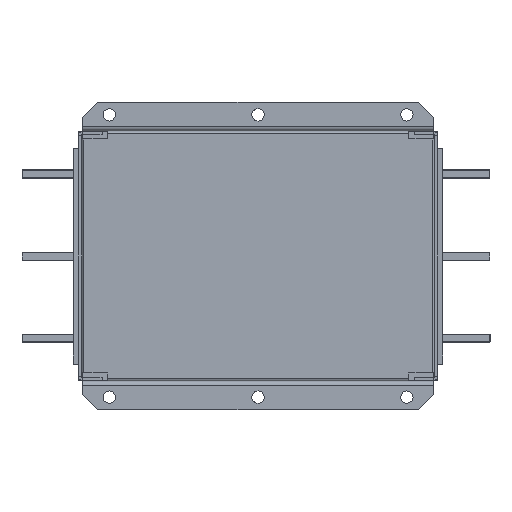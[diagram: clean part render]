
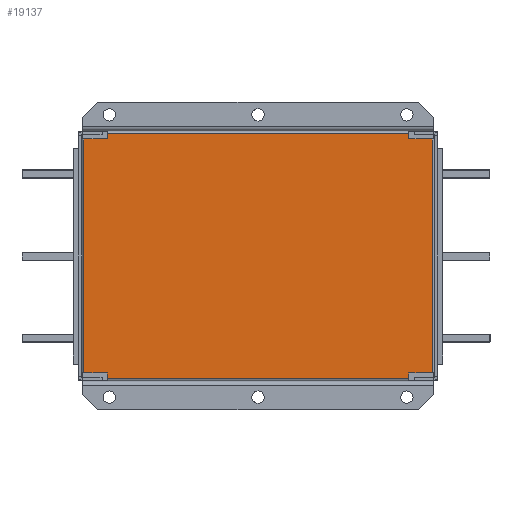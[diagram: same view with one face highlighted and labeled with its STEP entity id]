
A CAD part, front view. The second image highlights one B-rep face of the part: STEP entity #19137.
In plain terms, the highlighted planar face has unit normal (0, -1, 0) as drawn and (0, 1, 0) by its records, which use the part's own axes.
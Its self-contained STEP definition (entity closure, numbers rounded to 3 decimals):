
#208 = LINE ( 'NONE', #11949, #11821 ) ;
#303 = CARTESIAN_POINT ( 'NONE',  ( -171.5, 1.2, -121.5 ) ) ;
#444 = ORIENTED_EDGE ( 'NONE', *, *, #16433, .F. ) ;
#548 = VERTEX_POINT ( 'NONE', #15515 ) ;
#555 = EDGE_CURVE ( 'NONE', #23560, #25123, #14529, .T. ) ;
#724 = VECTOR ( 'NONE', #9466, 1000. ) ;
#1013 = CARTESIAN_POINT ( 'NONE',  ( 169.7, 1.2, -114. ) ) ;
#1271 = EDGE_CURVE ( 'NONE', #20962, #25123, #208, .T. ) ;
#1354 = ORIENTED_EDGE ( 'NONE', *, *, #3754, .T. ) ;
#1782 = DIRECTION ( 'NONE',  ( 0., 0., 1. ) ) ;
#2532 = VERTEX_POINT ( 'NONE', #14009 ) ;
#2834 = CARTESIAN_POINT ( 'NONE',  ( 147., 1.2, 119.7 ) ) ;
#2884 = ORIENTED_EDGE ( 'NONE', *, *, #9076, .F. ) ;
#2925 = DIRECTION ( 'NONE',  ( 0., 0., -1. ) ) ;
#3754 = EDGE_CURVE ( 'NONE', #548, #8858, #9800, .T. ) ;
#3946 = LINE ( 'NONE', #16986, #13227 ) ;
#3995 = VECTOR ( 'NONE', #25079, 1000. ) ;
#4526 = CARTESIAN_POINT ( 'NONE',  ( -147., 1.2, 121.5 ) ) ;
#4930 = CARTESIAN_POINT ( 'NONE',  ( 147., 1.2, -119.7 ) ) ;
#5096 = VECTOR ( 'NONE', #5281, 1000. ) ;
#5281 = DIRECTION ( 'NONE',  ( -1., 0., 0. ) ) ;
#5647 = DIRECTION ( 'NONE',  ( 0., 0., 1. ) ) ;
#5769 = ORIENTED_EDGE ( 'NONE', *, *, #20486, .F. ) ;
#5793 = EDGE_CURVE ( 'NONE', #23612, #27616, #22326, .T. ) ;
#5842 = CARTESIAN_POINT ( 'NONE',  ( 147., 1.2, -119.7 ) ) ;
#6689 = VECTOR ( 'NONE', #7346, 1000. ) ;
#7101 = CARTESIAN_POINT ( 'NONE',  ( -147., 1.2, 119.7 ) ) ;
#7346 = DIRECTION ( 'NONE',  ( 1., 0., 0. ) ) ;
#7787 = CARTESIAN_POINT ( 'NONE',  ( -171.5, 1.2, 114. ) ) ;
#8099 = ORIENTED_EDGE ( 'NONE', *, *, #21669, .F. ) ;
#8628 = ORIENTED_EDGE ( 'NONE', *, *, #21293, .T. ) ;
#8791 = CARTESIAN_POINT ( 'NONE',  ( -171.5, 1.2, -114. ) ) ;
#8858 = VERTEX_POINT ( 'NONE', #1013 ) ;
#8967 = VECTOR ( 'NONE', #2925, 1000. ) ;
#9076 = EDGE_CURVE ( 'NONE', #23560, #14041, #23456, .T. ) ;
#9223 = VERTEX_POINT ( 'NONE', #26894 ) ;
#9466 = DIRECTION ( 'NONE',  ( -1., 0., 0. ) ) ;
#9560 = PLANE ( 'NONE',  #18020 ) ;
#9800 = LINE ( 'NONE', #26367, #8967 ) ;
#9928 = EDGE_CURVE ( 'NONE', #9223, #8858, #3946, .T. ) ;
#10530 = VECTOR ( 'NONE', #14038, 1000. ) ;
#10780 = LINE ( 'NONE', #17126, #13585 ) ;
#10902 = ORIENTED_EDGE ( 'NONE', *, *, #1271, .F. ) ;
#11050 = VERTEX_POINT ( 'NONE', #25181 ) ;
#11821 = VECTOR ( 'NONE', #14929, 1000. ) ;
#11949 = CARTESIAN_POINT ( 'NONE',  ( 147., 1.2, 121.5 ) ) ;
#11965 = EDGE_CURVE ( 'NONE', #11050, #23612, #16942, .T. ) ;
#11985 = EDGE_LOOP ( 'NONE', ( #5769, #8628, #25547, #17369, #27529, #8099, #2884, #16228, #10902, #444, #1354, #19443 ) ) ;
#13227 = VECTOR ( 'NONE', #28194, 1000. ) ;
#13585 = VECTOR ( 'NONE', #1782, 1000. ) ;
#13749 = LINE ( 'NONE', #4930, #3995 ) ;
#14009 = CARTESIAN_POINT ( 'NONE',  ( -169.7, 1.2, 114. ) ) ;
#14038 = DIRECTION ( 'NONE',  ( 1., 0., 0. ) ) ;
#14041 = VERTEX_POINT ( 'NONE', #20052 ) ;
#14453 = DIRECTION ( 'NONE',  ( 0., 0., -1. ) ) ;
#14529 = LINE ( 'NONE', #16840, #6689 ) ;
#14653 = CARTESIAN_POINT ( 'NONE',  ( -147., 1.2, -114. ) ) ;
#14929 = DIRECTION ( 'NONE',  ( 0., 0., 1. ) ) ;
#15515 = CARTESIAN_POINT ( 'NONE',  ( 169.7, 1.2, 114. ) ) ;
#15563 = LINE ( 'NONE', #18377, #19852 ) ;
#16228 = ORIENTED_EDGE ( 'NONE', *, *, #555, .T. ) ;
#16433 = EDGE_CURVE ( 'NONE', #548, #20962, #17926, .T. ) ;
#16756 = DIRECTION ( 'NONE',  ( 0., 0., 1. ) ) ;
#16822 = LINE ( 'NONE', #7787, #5096 ) ;
#16840 = CARTESIAN_POINT ( 'NONE',  ( -147., 1.2, 119.7 ) ) ;
#16942 = LINE ( 'NONE', #8791, #10530 ) ;
#16986 = CARTESIAN_POINT ( 'NONE',  ( 171.5, 1.2, -114. ) ) ;
#17126 = CARTESIAN_POINT ( 'NONE',  ( -169.7, 1.2, -114. ) ) ;
#17369 = ORIENTED_EDGE ( 'NONE', *, *, #11965, .F. ) ;
#17926 = LINE ( 'NONE', #18674, #724 ) ;
#18020 = AXIS2_PLACEMENT_3D ( 'NONE', #303, #27864, #5647 ) ;
#18256 = CARTESIAN_POINT ( 'NONE',  ( -147., 1.2, -119.7 ) ) ;
#18377 = CARTESIAN_POINT ( 'NONE',  ( 147., 1.2, -121.5 ) ) ;
#18674 = CARTESIAN_POINT ( 'NONE',  ( 171.5, 1.2, 114. ) ) ;
#18809 = VERTEX_POINT ( 'NONE', #5842 ) ;
#19137 = ADVANCED_FACE ( 'NONE', ( #28576 ), #9560, .T. ) ;
#19443 = ORIENTED_EDGE ( 'NONE', *, *, #9928, .F. ) ;
#19852 = VECTOR ( 'NONE', #16756, 1000. ) ;
#20052 = CARTESIAN_POINT ( 'NONE',  ( -147., 1.2, 114. ) ) ;
#20486 = EDGE_CURVE ( 'NONE', #18809, #9223, #15563, .T. ) ;
#20962 = VERTEX_POINT ( 'NONE', #21042 ) ;
#21042 = CARTESIAN_POINT ( 'NONE',  ( 147., 1.2, 114. ) ) ;
#21293 = EDGE_CURVE ( 'NONE', #18809, #27616, #13749, .T. ) ;
#21669 = EDGE_CURVE ( 'NONE', #14041, #2532, #16822, .T. ) ;
#22326 = LINE ( 'NONE', #27791, #22353 ) ;
#22353 = VECTOR ( 'NONE', #28626, 1000. ) ;
#22556 = EDGE_CURVE ( 'NONE', #11050, #2532, #10780, .T. ) ;
#23058 = VECTOR ( 'NONE', #14453, 1000. ) ;
#23456 = LINE ( 'NONE', #4526, #23058 ) ;
#23560 = VERTEX_POINT ( 'NONE', #7101 ) ;
#23612 = VERTEX_POINT ( 'NONE', #14653 ) ;
#25079 = DIRECTION ( 'NONE',  ( -1., 0., 0. ) ) ;
#25123 = VERTEX_POINT ( 'NONE', #2834 ) ;
#25181 = CARTESIAN_POINT ( 'NONE',  ( -169.7, 1.2, -114. ) ) ;
#25547 = ORIENTED_EDGE ( 'NONE', *, *, #5793, .F. ) ;
#26367 = CARTESIAN_POINT ( 'NONE',  ( 169.7, 1.2, 114. ) ) ;
#26894 = CARTESIAN_POINT ( 'NONE',  ( 147., 1.2, -114. ) ) ;
#27529 = ORIENTED_EDGE ( 'NONE', *, *, #22556, .T. ) ;
#27616 = VERTEX_POINT ( 'NONE', #18256 ) ;
#27791 = CARTESIAN_POINT ( 'NONE',  ( -147., 1.2, -121.5 ) ) ;
#27864 = DIRECTION ( 'NONE',  ( 0., 1., 0. ) ) ;
#28194 = DIRECTION ( 'NONE',  ( 1., 0., 0. ) ) ;
#28576 = FACE_OUTER_BOUND ( 'NONE', #11985, .T. ) ;
#28626 = DIRECTION ( 'NONE',  ( 0., 0., -1. ) ) ;
